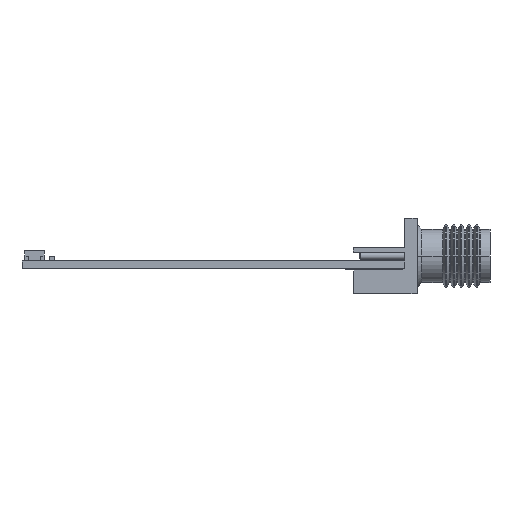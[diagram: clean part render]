
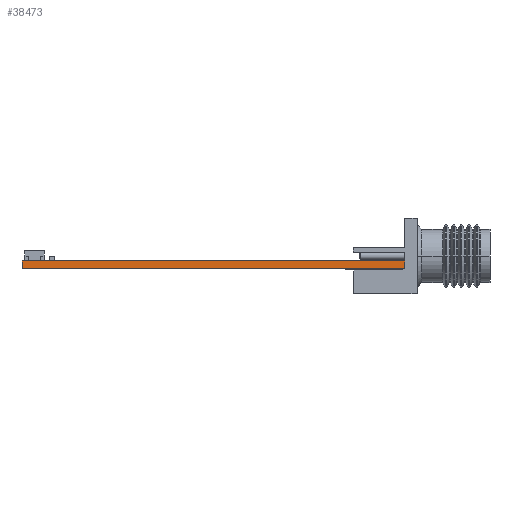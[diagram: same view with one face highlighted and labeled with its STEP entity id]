
A CAD part, left-side view. The second image highlights one B-rep face of the part: STEP entity #38473.
In plain terms, the highlighted planar face has unit normal (-1, 0, 0).
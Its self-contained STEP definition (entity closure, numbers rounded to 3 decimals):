
#70=DIRECTION('',(0.,-1.,0.));
#71=VECTOR('',#70,40.);
#72=CARTESIAN_POINT('',(-43.8,0.3,0.));
#73=LINE('',#72,#71);
#9031=DIRECTION('',(0.,-1.,0.));
#9032=VECTOR('',#9031,40.);
#9033=CARTESIAN_POINT('',(-43.8,0.3,-0.8));
#9034=LINE('',#9033,#9032);
#10339=DIRECTION('',(0.,0.,-1.));
#10340=VECTOR('',#10339,0.8);
#10341=CARTESIAN_POINT('',(-43.8,0.3,0.));
#10342=LINE('',#10341,#10340);
#10343=DIRECTION('',(0.,0.,-1.));
#10344=VECTOR('',#10343,0.8);
#10345=CARTESIAN_POINT('',(-43.8,-39.7,0.));
#10346=LINE('',#10345,#10344);
#23958=CARTESIAN_POINT('',(-43.8,0.3,0.));
#23959=CARTESIAN_POINT('',(-43.8,-39.7,0.));
#23960=VERTEX_POINT('',#23958);
#23961=VERTEX_POINT('',#23959);
#23966=CARTESIAN_POINT('',(-43.8,0.3,-0.8));
#23967=CARTESIAN_POINT('',(-43.8,-39.7,-0.8));
#23968=VERTEX_POINT('',#23966);
#23969=VERTEX_POINT('',#23967);
#38460=CARTESIAN_POINT('',(-43.8,0.3,0.));
#38461=DIRECTION('',(-1.,0.,0.));
#38462=DIRECTION('',(0.,-1.,0.));
#38463=AXIS2_PLACEMENT_3D('',#38460,#38461,#38462);
#38464=PLANE('',#38463);
#38465=ORIENTED_EDGE('',*,*,#31711,.T.);
#38467=ORIENTED_EDGE('',*,*,#38466,.T.);
#38468=ORIENTED_EDGE('',*,*,#37668,.F.);
#38470=ORIENTED_EDGE('',*,*,#38469,.F.);
#38471=EDGE_LOOP('',(#38465,#38467,#38468,#38470));
#38472=FACE_OUTER_BOUND('',#38471,.F.);
#38473=ADVANCED_FACE('',(#38472),#38464,.T.);
#31711=EDGE_CURVE('',#23960,#23961,#73,.T.);
#37668=EDGE_CURVE('',#23968,#23969,#9034,.T.);
#38466=EDGE_CURVE('',#23961,#23969,#10346,.T.);
#38469=EDGE_CURVE('',#23960,#23968,#10342,.T.);
